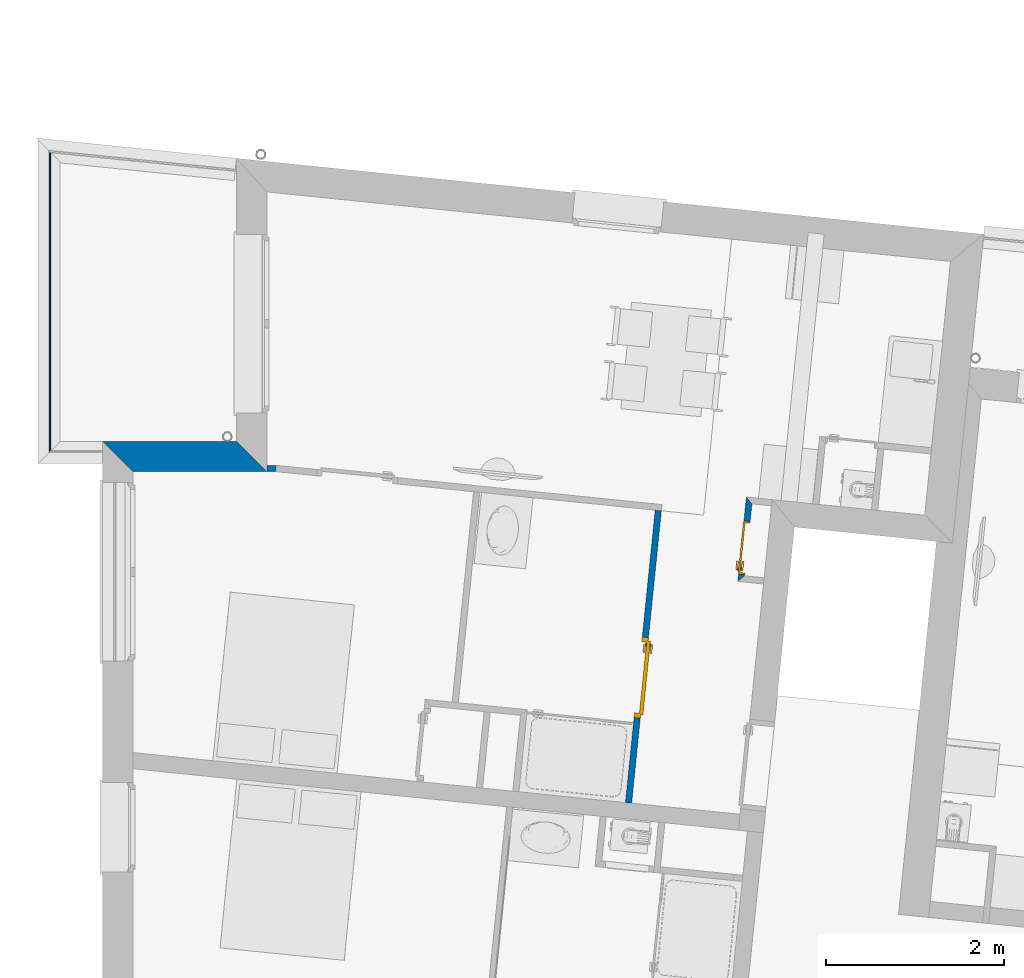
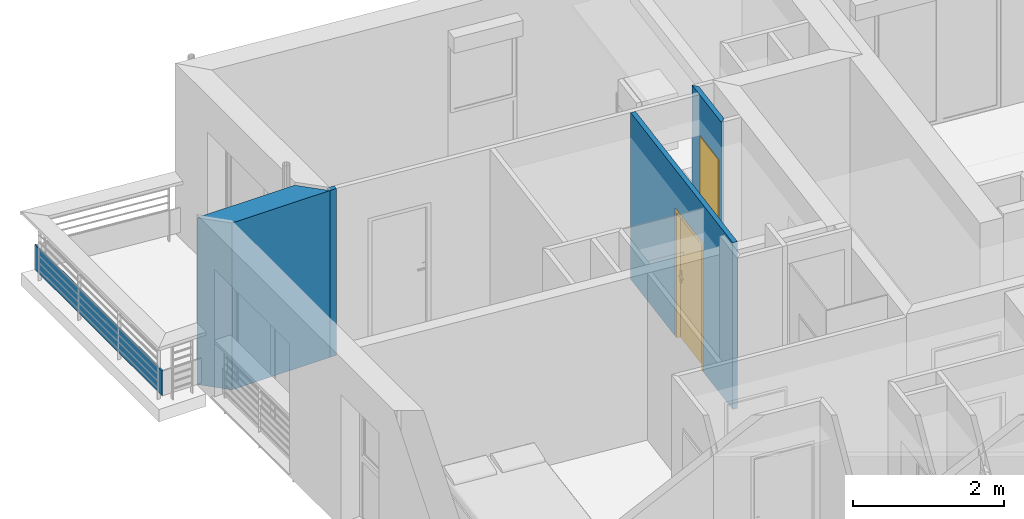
# One storey, part 61 of 164: 5 walls, 2 doors, 2 openings.
"""IFC2X3 building model written with IfcOpenShell, lengths in millimetres."""

from ifc_helpers import new_model, entity, si_unit, converted_unit, derived_unit, money_unit, direction, frame, origin_with_axes, origin_2d_with_axis, place, context, subcontext, project, spatial, polyline, rectangle, outline, extrude, faceted_brep, source, transform, mapped, material, layer, layer_set, layer_usage, type_object, element, fill, save


model = new_model("IFC2X3")

# Units and contexts
model_context = context("Model", 3, precision=0.01, world=origin_with_axes(), true_north=direction((0.0, 1.0)))
body_context = subcontext(model_context, "Body", "Model", "MODEL_VIEW")
ifc_project = project(units=[si_unit("LENGTHUNIT", "METRE", prefix="MILLI"), si_unit("AREAUNIT", "SQUARE_METRE"), si_unit("VOLUMEUNIT", "CUBIC_METRE"), converted_unit("PLANEANGLEUNIT", "DEGREE", entity("IfcPlaneAngleMeasure", 0.0174532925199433), si_unit("PLANEANGLEUNIT", "RADIAN"), dimensions=[0, 0, 0, 0, 0, 0, 0]), money_unit("USD"), converted_unit("TIMEUNIT", "Year", entity("IfcTimeMeasure", 31557600.0), si_unit("TIMEUNIT", "SECOND"), dimensions=[0, 0, 1, 0, 0, 0, 0]), si_unit("MASSUNIT", "GRAM", prefix="KILO"), si_unit("THERMODYNAMICTEMPERATUREUNIT", "DEGREE_CELSIUS"), si_unit("LUMINOUSINTENSITYUNIT", "LUMEN"), si_unit("ENERGYUNIT", "JOULE", prefix="MEGA"), derived_unit("THERMALCONDUCTANCEUNIT", [(si_unit("POWERUNIT", "WATT"), 1), (si_unit("LENGTHUNIT", "METRE"), -1), (si_unit("THERMODYNAMICTEMPERATUREUNIT", "KELVIN"), -1)]), derived_unit("SPECIFICHEATCAPACITYUNIT", [(si_unit("ENERGYUNIT", "JOULE"), 1), (si_unit("MASSUNIT", "GRAM", prefix="KILO"), -1), (si_unit("THERMODYNAMICTEMPERATUREUNIT", "KELVIN"), -1)]), derived_unit("MASSDENSITYUNIT", [(si_unit("MASSUNIT", "GRAM", prefix="KILO"), 1), (si_unit("VOLUMEUNIT", "CUBIC_METRE"), -1)])], contexts=[model_context])

# Site, building, storey
site_placement = place(None, origin_with_axes())
site = spatial("IfcSite", under=ifc_project, at=site_placement, Name="Site", CompositionType="ELEMENT")
building_placement = place(site_placement, origin_with_axes())
building = spatial("IfcBuilding", under=site, at=building_placement, Name="Bâtiment", CompositionType="ELEMENT")
storey_placement = place(building_placement, frame((0.0, 0.0, 5750.0), z_axis=(0.0, 0.0, 1.0), x_axis=(1.0, 0.0, 0.0)))
storey = spatial("IfcBuildingStorey", under=building, at=storey_placement, Name="Etage1", CompositionType="ELEMENT", Elevation=5750.0)

# Wall, opening, door
ifc_material_1 = material(Name="Hachure solide 268963992")
ifc_layer_1 = layer(ifc_material_1, 70.0, ventilated="UNKNOWN")
ifc_layer_set_1 = layer_set([ifc_layer_1], Name="Cloison 70 0826278243")
ifc_layer_usage_1 = layer_usage(ifc_layer_set_1, "AXIS2", "POSITIVE", -70.0)
wall_type_1 = type_object("IfcWallType", Name="Cloison 70 0826278243 70", PredefinedType="NOTDEFINED")
wall_1_placement = place(storey_placement, frame((2222477.24600106, -611397.7494979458, 0.0), z_axis=(0.0, 0.0, 1.0), x_axis=(0.1011032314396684, 0.9948759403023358, 0.0)))
wall_1 = element("IfcWallStandardCase", 1, at=wall_1_placement, inside=storey, type_object=wall_type_1, material=ifc_layer_usage_1, Name="Mur-149", context=body_context, shape_type="SweptSolid", body=[
    extrude(outline(polyline([(179.9978547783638, -70.00000000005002), (3475.820001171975, -69.99999999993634), (3475.82000051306, 0.0), (179.9978541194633, 0.0), (179.9978547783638, -70.00000000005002)])), origin_with_axes(), (0.0, 0.0, 1.0), 2700.0),
])
opening_1_placement = place(wall_1_placement, frame((1593.142240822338, 0.0, 0.0), z_axis=(0.0, 0.0, 1.0), x_axis=(1.0, 0.0, 0.0)))
opening_1 = element("IfcOpeningElement", 2, at=opening_1_placement, cuts=wall_1, Name="Por-285", context=body_context, shape_type="SweptSolid", body=[
    extrude(rectangle(XDim=910.0, YDim=2080.0, at=origin_2d_with_axis()), frame((0.0, 69.99999999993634, 1040.0), z_axis=(0.0, -1.0, 0.0), x_axis=(-1.0, 0.0, 0.0)), (0.0, 0.0, 1.0), 140.0),
])
door_style = type_object("IfcDoorStyle", Name="Porte_1v", ConstructionType="NOTDEFINED", OperationType="NOTDEFINED", ParameterTakesPrecedence=False, Sizeable=False)
shared_shape_1 = source(origin_with_axes(), body_context, "Body", "Brep", [
    faceted_brep([(455.0, 0.0, 0.0), (415.0000000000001, 0.0, 0.0), (415.0000000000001, 0.0, 2040.0), (-415.0000000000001, 0.0, 2040.0), (-415.0000000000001, 0.0, 0.0), (-455.0, 0.0, 0.0), (-455.0, 0.0, 2080.0), (455.0, 0.0, 2080.0), (455.0, -70.0, 0.0), (400.0, -70.0, 0.0), (400.0, -15.0, 0.0), (415.0000000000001, -15.0, 0.0), (415.0000000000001, -15.0, 2040.0), (-415.0000000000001, -15.0, 2040.0), (-415.0000000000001, -15.0, 0.0), (-400.0, -15.0, 0.0), (-400.0, -70.0, 0.0), (-455.0, -70.0, 0.0), (-455.0, -70.0, 2080.0), (455.0, -70.0, 2080.0), (-400.0, -70.0, 2025.0), (400.0, -70.0, 2025.0), (400.0, -15.0, 2025.0), (-400.0, -15.0, 2025.0)], [[[0, 1, 2, 3, 4, 5, 6, 7]], [[0, 8, 9, 10, 11, 1]], [[1, 11, 12, 2]], [[2, 12, 13, 3]], [[3, 13, 14, 4]], [[5, 4, 14, 15, 16, 17]], [[18, 6, 5, 17]], [[19, 7, 6, 18]], [[8, 0, 7, 19]], [[9, 8, 19, 18, 17, 16, 20, 21]], [[10, 9, 21, 22]], [[11, 10, 22, 23, 15, 14, 13, 12]], [[23, 20, 16, 15]], [[22, 21, 20, 23]]]),
    faceted_brep([(-350.0000000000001, -15.0, 900.0), (-390.0, -15.0, 900.0), (-390.0, -15.0, 1100.0), (-350.0000000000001, -15.0, 1100.0), (-350.0000000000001, -25.0, 900.0), (-390.0, -25.0, 900.0), (-390.0, -25.0, 1100.0), (-350.0000000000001, -25.0, 1100.0)], [[[0, 1, 2, 3]], [[1, 0, 4, 5]], [[2, 1, 5, 6]], [[3, 2, 6, 7]], [[0, 3, 7, 4]], [[5, 4, 7, 6]]]),
    faceted_brep([(-280.0, -25.0, 1000.0), (-380.0, -25.0, 1000.0), (-380.0, -25.0, 1020.0), (-280.0, -25.0, 1020.0), (-280.0, -45.0, 1000.0), (-380.0, -45.0, 1000.0), (-380.0, -45.0, 1020.0), (-280.0, -45.0, 1020.0)], [[[0, 1, 2, 3]], [[1, 0, 4, 5]], [[2, 1, 5, 6]], [[3, 2, 6, 7]], [[0, 3, 7, 4]], [[5, 4, 7, 6]]]),
    faceted_brep([(-350.0000000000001, 35.0, 900.0), (-390.0, 35.0, 900.0), (-390.0, 35.0, 1100.0), (-350.0000000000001, 35.0, 1100.0), (-350.0000000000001, 25.0, 900.0), (-390.0, 25.0, 900.0), (-390.0, 25.0, 1100.0), (-350.0000000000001, 25.0, 1100.0)], [[[0, 1, 2, 3]], [[1, 0, 4, 5]], [[2, 1, 5, 6]], [[3, 2, 6, 7]], [[0, 3, 7, 4]], [[5, 4, 7, 6]]]),
    faceted_brep([(-280.0, 55.00000000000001, 1000.0), (-380.0, 55.00000000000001, 1000.0), (-380.0, 55.00000000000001, 1020.0), (-280.0, 55.00000000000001, 1020.0), (-280.0, 35.0, 1000.0), (-380.0, 35.0, 1000.0), (-380.0, 35.0, 1020.0), (-280.0, 35.0, 1020.0)], [[[0, 1, 2, 3]], [[1, 0, 4, 5]], [[2, 1, 5, 6]], [[3, 2, 6, 7]], [[0, 3, 7, 4]], [[5, 4, 7, 6]]]),
    faceted_brep([(-415.0000000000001, 25.0, 0.0), (415.0000000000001, 25.0, 0.0), (415.0000000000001, -15.0, 0.0), (-415.0000000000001, -15.0, 0.0), (-415.0000000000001, 25.0, 2040.0), (415.0000000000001, 25.0, 2040.0), (415.0000000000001, -15.0, 2040.0), (-415.0000000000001, -15.0, 2040.0)], [[[0, 1, 2, 3]], [[0, 4, 5, 1]], [[1, 5, 6, 2]], [[3, 2, 6, 7]], [[4, 0, 3, 7]], [[5, 4, 7, 6]]]),
])
door_1_placement = place(opening_1_placement, frame((414.9999999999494, -1.13686837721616e-10, 0.0), z_axis=(0.0, 0.0, 1.0), x_axis=(-1.0, 0.0, 0.0)))
door_1 = element("IfcDoor", 3, at=door_1_placement, inside=storey, type_object=door_style, Name="Por-285", OverallHeight=2040.0, OverallWidth=830.0, context=body_context, shape_type="MappedRepresentation", body=[
    mapped(shared_shape_1, transform((414.999999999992, 70.00000000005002, 0.0))),
])
fill(opening_1, door_1)

# Wall
ifc_layer_usage_2 = layer_usage(ifc_layer_set_1, "AXIS2", "NEGATIVE", 70.0)
wall_2_placement = place(storey_placement, frame((2218474.233344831, -607507.3879007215, 0.0), z_axis=(0.0, 0.0, 1.0), x_axis=(1.0, 0.0, 0.0)))
element("IfcWallStandardCase", 4, at=wall_2_placement, inside=storey, type_object=wall_type_1, material=ifc_layer_usage_2, Name="Mur-149", context=body_context, shape_type="SweptSolid", body=[
    extrude(outline(polyline([(0.0, 0.0), (99.99999999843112, 0.0), (103.547702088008, 70.00000000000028), (0.0, 70.00000000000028), (0.0, 0.0)])), origin_with_axes(), (0.0, 0.0, 1.0), 2700.0),
])

# Wall, opening, door
ifc_layer_usage_3 = layer_usage(ifc_layer_set_1, "AXIS2", "NEGATIVE", 70.0)
wall_3_placement = place(storey_placement, frame((2223831.734349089, -608675.7001755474, 0.0), z_axis=(0.0, 0.0, 1.0), x_axis=(0.1012099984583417, 0.9948650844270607, 0.0)))
wall_3 = element("IfcWallStandardCase", 5, at=wall_3_placement, inside=storey, type_object=wall_type_1, material=ifc_layer_usage_3, Name="Mur-149", context=body_context, shape_type="SweptSolid", body=[
    extrude(outline(polyline([(0.0, 1.13686837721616e-10), (810.5519630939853, 0.0), (880.6529518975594, 70.00000000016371), (-70.00214129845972, 70.00000000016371), (0.0, 1.13686837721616e-10)])), origin_with_axes(), (0.0, 0.0, 1.0), 2700.0),
])
opening_2_placement = place(wall_3_placement, frame((311.979239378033, -1.13686837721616e-10, 0.0), z_axis=(0.0, 0.0, 1.0), x_axis=(1.0, 0.0, 0.0)))
opening_2 = element("IfcOpeningElement", 6, at=opening_2_placement, cuts=wall_3, Name="Por-274", context=body_context, shape_type="SweptSolid", body=[
    extrude(rectangle(XDim=599.9999999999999, YDim=2050.0, at=origin_2d_with_axis()), frame((0.0, -70.00000000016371, 1025.0), z_axis=(0.0, 1.0, 0.0), x_axis=(1.0, 0.0, 0.0)), (0.0, 0.0, 1.0), 140.0),
])
shared_shape_2 = source(origin_with_axes(), body_context, "Body", "Brep", [
    faceted_brep([(300.0, 0.0, 0.0), (290.0, 0.0, 0.0), (290.0, 0.0, 2040.0), (-290.0, 0.0, 2040.0), (-290.0, 0.0, 0.0), (-300.0, 0.0, 0.0), (-300.0, 0.0, 2050.0), (300.0, 0.0, 2050.0), (300.0, -70.0, 0.0), (279.9999999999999, -70.0, 0.0), (279.9999999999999, -15.0, 0.0), (290.0, -15.0, 0.0), (290.0, -15.0, 2040.0), (-290.0, -15.0, 2040.0), (-290.0, -15.0, 0.0), (-279.9999999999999, -15.0, 0.0), (-279.9999999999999, -70.0, 0.0), (-300.0, -70.0, 0.0), (-300.0, -70.0, 2050.0), (300.0, -70.0, 2050.0), (-279.9999999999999, -70.0, 2030.0), (279.9999999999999, -70.0, 2030.0), (279.9999999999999, -15.0, 2030.0), (-279.9999999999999, -15.0, 2030.0)], [[[0, 1, 2, 3, 4, 5, 6, 7]], [[0, 8, 9, 10, 11, 1]], [[1, 11, 12, 2]], [[2, 12, 13, 3]], [[3, 13, 14, 4]], [[5, 4, 14, 15, 16, 17]], [[18, 6, 5, 17]], [[19, 7, 6, 18]], [[8, 0, 7, 19]], [[9, 8, 19, 18, 17, 16, 20, 21]], [[10, 9, 21, 22]], [[11, 10, 22, 23, 15, 14, 13, 12]], [[23, 20, 16, 15]], [[22, 21, 20, 23]]]),
    faceted_brep([(-224.9999999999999, -15.0, 900.0), (-264.9999999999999, -15.0, 900.0), (-264.9999999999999, -15.0, 1100.0), (-224.9999999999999, -15.0, 1100.0), (-224.9999999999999, -25.0, 900.0), (-264.9999999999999, -25.0, 900.0), (-264.9999999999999, -25.0, 1100.0), (-224.9999999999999, -25.0, 1100.0)], [[[0, 1, 2, 3]], [[1, 0, 4, 5]], [[2, 1, 5, 6]], [[3, 2, 6, 7]], [[0, 3, 7, 4]], [[5, 4, 7, 6]]]),
    faceted_brep([(-154.9999999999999, -25.0, 1000.0), (-254.9999999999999, -25.0, 1000.0), (-254.9999999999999, -25.0, 1020.0), (-154.9999999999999, -25.0, 1020.0), (-154.9999999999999, -45.0, 1000.0), (-254.9999999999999, -45.0, 1000.0), (-254.9999999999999, -45.0, 1020.0), (-154.9999999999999, -45.0, 1020.0)], [[[0, 1, 2, 3]], [[1, 0, 4, 5]], [[2, 1, 5, 6]], [[3, 2, 6, 7]], [[0, 3, 7, 4]], [[5, 4, 7, 6]]]),
    faceted_brep([(-224.9999999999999, 15.0, 900.0), (-264.9999999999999, 15.0, 900.0), (-264.9999999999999, 15.0, 1100.0), (-224.9999999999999, 15.0, 1100.0), (-224.9999999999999, 5.000000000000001, 900.0), (-264.9999999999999, 5.000000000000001, 900.0), (-264.9999999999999, 5.000000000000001, 1100.0), (-224.9999999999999, 5.000000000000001, 1100.0)], [[[0, 1, 2, 3]], [[1, 0, 4, 5]], [[2, 1, 5, 6]], [[3, 2, 6, 7]], [[0, 3, 7, 4]], [[5, 4, 7, 6]]]),
    faceted_brep([(-154.9999999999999, 35.0, 1000.0), (-254.9999999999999, 35.0, 1000.0), (-254.9999999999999, 35.0, 1020.0), (-154.9999999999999, 35.0, 1020.0), (-154.9999999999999, 15.0, 1000.0), (-254.9999999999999, 15.0, 1000.0), (-254.9999999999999, 15.0, 1020.0), (-154.9999999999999, 15.0, 1020.0)], [[[0, 1, 2, 3]], [[1, 0, 4, 5]], [[2, 1, 5, 6]], [[3, 2, 6, 7]], [[0, 3, 7, 4]], [[5, 4, 7, 6]]]),
    faceted_brep([(-290.0, 5.000000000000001, 0.0), (290.0, 5.000000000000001, 0.0), (290.0, -15.0, 0.0), (-290.0, -15.0, 0.0), (-290.0, 5.000000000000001, 2040.0), (290.0, 5.000000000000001, 2040.0), (290.0, -15.0, 2040.0), (-290.0, -15.0, 2040.0)], [[[0, 1, 2, 3]], [[0, 4, 5, 1]], [[1, 5, 6, 2]], [[3, 2, 6, 7]], [[4, 0, 3, 7]], [[5, 4, 7, 6]]]),
])
door_2_placement = place(opening_2_placement, frame((-289.9999999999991, 0.0, 0.0), z_axis=(0.0, 0.0, 1.0), x_axis=(1.0, 0.0, 0.0)))
door_2 = element("IfcDoor", 7, at=door_2_placement, inside=storey, type_object=door_style, Name="Por-274", OverallHeight=2040.0, OverallWidth=580.0, context=body_context, shape_type="MappedRepresentation", body=[
    mapped(shared_shape_2, transform((289.9999999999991, 69.99999999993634, 0.0))),
])
fill(opening_2, door_2)

# Walls
ifc_material_2 = material(Name="MANQUANT")
ifc_layer_2 = layer(ifc_material_2, 20.0, ventilated="UNKNOWN")
ifc_layer_set_2 = layer_set([ifc_layer_2], Name="MANQUANT 20")
ifc_layer_usage_4 = layer_usage(ifc_layer_set_2, "AXIS2", "NEGATIVE", 20.0)
wall_type_2 = type_object("IfcWallType", Name="MANQUANT 20", PredefinedType="NOTDEFINED")
wall_4_placement = place(storey_placement, frame((2216033.871261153, -603908.0016091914, 99.99999999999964), z_axis=(0.0, 0.0, 1.0), x_axis=(0.0, -1.0, 0.0)))
element("IfcWallStandardCase", 8, at=wall_4_placement, inside=storey, type_object=wall_type_2, material=ifc_layer_usage_4, Name="Mur-165", context=body_context, shape_type="SweptSolid", body=[
    extrude(outline(polyline([(0.0, 0.0), (3384.386291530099, 0.0), (3364.386291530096, 19.99999999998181), (0.0, 19.99999999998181), (0.0, 0.0)])), origin_with_axes(), (0.0, 0.0, 1.0), 400.0),
])
ifc_material_3 = material(Name="Parpaing 312445824")
ifc_layer_3 = layer(ifc_material_3, 180.0, ventilated="UNKNOWN")
ifc_material_4 = material(Name="Isolant styromousse 301821074")
ifc_layer_4 = layer(ifc_material_4, 160.0, ventilated="UNKNOWN")
ifc_layer_set_3 = layer_set([ifc_layer_3, ifc_layer_4], Name="isol int 18+16 0018356637")
ifc_layer_usage_5 = layer_usage(ifc_layer_set_3, "AXIS2", "NEGATIVE", 0.0)
wall_type_3 = type_object("IfcWallType", Name="isol int 18+16 0018356637 340", PredefinedType="NOTDEFINED")
wall_5_placement = place(storey_placement, frame((2216634.233344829, -607167.3879007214, 0.0), z_axis=(0.0, 0.0, 1.0), x_axis=(1.0, 0.0, 0.0)))
element("IfcWallStandardCase", 9, at=wall_5_placement, inside=storey, type_object=wall_type_3, material=ifc_layer_usage_5, Name="Mur-142", context=body_context, shape_type="SweptSolid", body=[
    extrude(outline(polyline([(339.9999999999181, -340.0000000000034), (1840.000000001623, -340.0000000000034), (1500.000000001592, 0.0), (-1.13686837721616e-10, 0.0), (339.9999999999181, -340.0000000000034)])), origin_with_axes(), (0.0, 0.0, 1.0), 2700.0),
])

save(model, "model.ifc")
